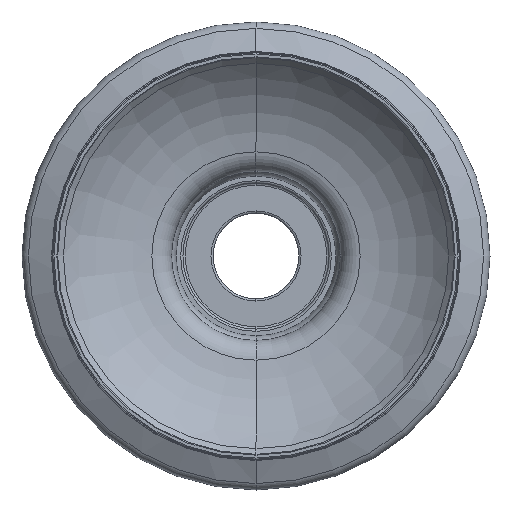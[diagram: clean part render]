
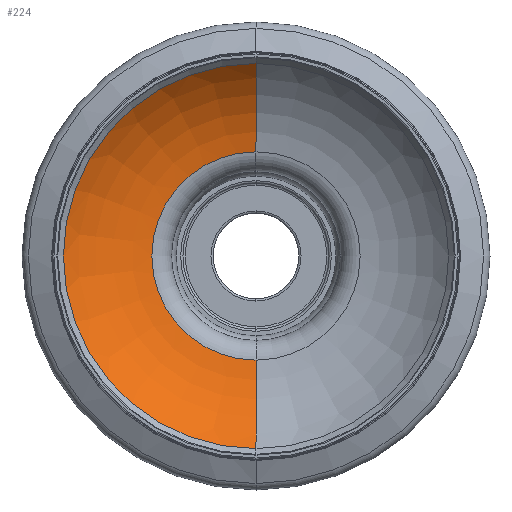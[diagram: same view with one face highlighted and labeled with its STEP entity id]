
A CAD part, front view. The second image highlights one B-rep face of the part: STEP entity #224.
In plain terms, the highlighted toroidal (fillet/blend) face has major radius 7.363 mm and minor radius 12.677 mm.
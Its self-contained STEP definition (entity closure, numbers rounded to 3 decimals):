
#91 = CARTESIAN_POINT ( 'NONE',  ( 0., -52.285, 7.363 ) ) ;
#114 = TOROIDAL_SURFACE ( 'NONE', #174, 7.363, 12.677 ) ;
#174 = AXIS2_PLACEMENT_3D ( 'NONE', #1544, #957, #909 ) ;
#224 = ADVANCED_FACE ( 'NONE', ( #1195 ), #114, .F. ) ;
#285 = CARTESIAN_POINT ( 'NONE',  ( 0., -39.731, 9.122 ) ) ;
#287 = AXIS2_PLACEMENT_3D ( 'NONE', #91, #578, #428 ) ;
#302 = CIRCLE ( 'NONE', #287, 12.677 ) ;
#428 = DIRECTION ( 'NONE',  ( 0., 0., 1. ) ) ;
#497 = ORIENTED_EDGE ( 'NONE', *, *, #1894, .T. ) ;
#551 = DIRECTION ( 'NONE',  ( 0., 0., -1. ) ) ;
#557 = ORIENTED_EDGE ( 'NONE', *, *, #1297, .F. ) ;
#578 = DIRECTION ( 'NONE',  ( -1., 0., 0. ) ) ;
#606 = CARTESIAN_POINT ( 'NONE',  ( 0., -43.9, -16.871 ) ) ;
#677 = CARTESIAN_POINT ( 'NONE',  ( 0., -43.9, 0. ) ) ;
#696 = AXIS2_PLACEMENT_3D ( 'NONE', #677, #994, #699 ) ;
#699 = DIRECTION ( 'NONE',  ( 0., 0., 1. ) ) ;
#706 = CARTESIAN_POINT ( 'NONE',  ( 0., -39.731, -9.122 ) ) ;
#849 = DIRECTION ( 'NONE',  ( 0., 1., 0. ) ) ;
#869 = ORIENTED_EDGE ( 'NONE', *, *, #1667, .F. ) ;
#889 = VERTEX_POINT ( 'NONE', #606 ) ;
#909 = DIRECTION ( 'NONE',  ( 0., 0., 1. ) ) ;
#957 = DIRECTION ( 'NONE',  ( 0., 1., 0. ) ) ;
#994 = DIRECTION ( 'NONE',  ( 0., 1., 0. ) ) ;
#1011 = DIRECTION ( 'NONE',  ( 1., 0., 0. ) ) ;
#1054 = AXIS2_PLACEMENT_3D ( 'NONE', #1956, #849, #1608 ) ;
#1121 = EDGE_CURVE ( 'NONE', #1435, #1861, #1871, .T. ) ;
#1195 = FACE_OUTER_BOUND ( 'NONE', #1652, .T. ) ;
#1237 = CIRCLE ( 'NONE', #696, 16.871 ) ;
#1256 = ORIENTED_EDGE ( 'NONE', *, *, #1121, .T. ) ;
#1297 = EDGE_CURVE ( 'NONE', #1860, #1861, #302, .T. ) ;
#1310 = CIRCLE ( 'NONE', #1872, 12.677 ) ;
#1344 = CARTESIAN_POINT ( 'NONE',  ( 0., -43.9, 16.871 ) ) ;
#1435 = VERTEX_POINT ( 'NONE', #706 ) ;
#1468 = CARTESIAN_POINT ( 'NONE',  ( 0., -52.285, -7.363 ) ) ;
#1544 = CARTESIAN_POINT ( 'NONE',  ( 0., -52.285, 0. ) ) ;
#1608 = DIRECTION ( 'NONE',  ( 0., 0., 1. ) ) ;
#1652 = EDGE_LOOP ( 'NONE', ( #869, #497, #1256, #557 ) ) ;
#1667 = EDGE_CURVE ( 'NONE', #889, #1860, #1237, .T. ) ;
#1860 = VERTEX_POINT ( 'NONE', #1344 ) ;
#1861 = VERTEX_POINT ( 'NONE', #285 ) ;
#1871 = CIRCLE ( 'NONE', #1054, 9.122 ) ;
#1872 = AXIS2_PLACEMENT_3D ( 'NONE', #1468, #1011, #551 ) ;
#1894 = EDGE_CURVE ( 'NONE', #889, #1435, #1310, .T. ) ;
#1956 = CARTESIAN_POINT ( 'NONE',  ( 0., -39.731, 0. ) ) ;
